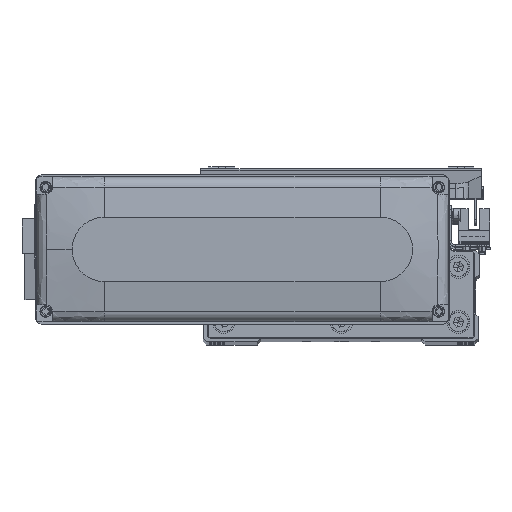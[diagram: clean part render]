
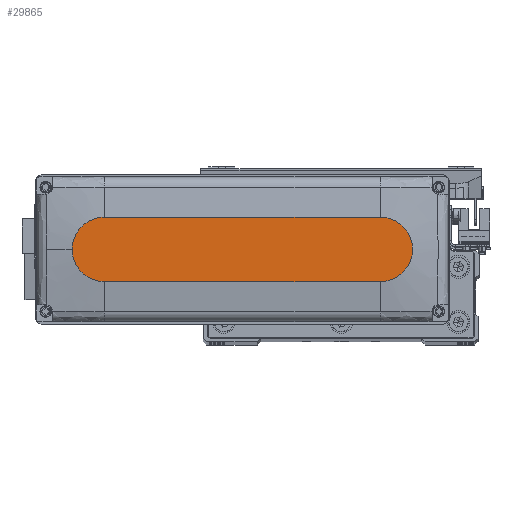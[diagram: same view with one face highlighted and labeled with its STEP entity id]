
A CAD part, top view. The second image highlights one B-rep face of the part: STEP entity #29865.
In plain terms, the highlighted planar face has unit normal (0, 0, 1).
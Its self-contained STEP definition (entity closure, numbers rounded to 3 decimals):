
#271 = VERTEX_POINT ( 'NONE', #20678 ) ;
#825 = ORIENTED_EDGE ( 'NONE', *, *, #6458, .T. ) ;
#1138 = AXIS2_PLACEMENT_3D ( 'NONE', #16083, #30226, #44356 ) ;
#1383 = EDGE_CURVE ( 'NONE', #8369, #29084, #21163, .T. ) ;
#1392 = CARTESIAN_POINT ( 'NONE',  ( -60., 14., 28.5 ) ) ;
#1830 = DIRECTION ( 'NONE',  ( 1., 0., 0. ) ) ;
#2364 = DIRECTION ( 'NONE',  ( 1., 0., 0. ) ) ;
#3411 = CARTESIAN_POINT ( 'NONE',  ( 74., 0., 28.5 ) ) ;
#3756 = ORIENTED_EDGE ( 'NONE', *, *, #1383, .T. ) ;
#5350 = VECTOR ( 'NONE', #25295, 1000. ) ;
#5561 = CARTESIAN_POINT ( 'NONE',  ( 60., 0., 28.5 ) ) ;
#5878 = PLANE ( 'NONE',  #39982 ) ;
#6391 = ORIENTED_EDGE ( 'NONE', *, *, #28171, .T. ) ;
#6458 = EDGE_CURVE ( 'NONE', #12574, #8369, #42922, .T. ) ;
#8369 = VERTEX_POINT ( 'NONE', #15880 ) ;
#9347 = EDGE_LOOP ( 'NONE', ( #6391, #39689, #825, #3756, #19854 ) ) ;
#11157 = CARTESIAN_POINT ( 'NONE',  ( -60., -14., 28.5 ) ) ;
#12574 = VERTEX_POINT ( 'NONE', #26979 ) ;
#15568 = DIRECTION ( 'NONE',  ( -1., 0., 0. ) ) ;
#15753 = EDGE_CURVE ( 'NONE', #29084, #22089, #18396, .T. ) ;
#15880 = CARTESIAN_POINT ( 'NONE',  ( 60., -14., 28.5 ) ) ;
#16083 = CARTESIAN_POINT ( 'NONE',  ( 60., 0., 28.5 ) ) ;
#17761 = EDGE_CURVE ( 'NONE', #271, #12574, #45610, .T. ) ;
#18396 = CIRCLE ( 'NONE', #44299, 14. ) ;
#19478 = CARTESIAN_POINT ( 'NONE',  ( -60., 0., 28.5 ) ) ;
#19706 = DIRECTION ( 'NONE',  ( 0., 0., 1. ) ) ;
#19854 = ORIENTED_EDGE ( 'NONE', *, *, #15753, .T. ) ;
#20020 = CARTESIAN_POINT ( 'NONE',  ( 0., 0., 28.5 ) ) ;
#20678 = CARTESIAN_POINT ( 'NONE',  ( -60., 14., 28.5 ) ) ;
#21163 = CIRCLE ( 'NONE', #1138, 14. ) ;
#22089 = VERTEX_POINT ( 'NONE', #44977 ) ;
#25295 = DIRECTION ( 'NONE',  ( 1., 0., 0. ) ) ;
#25621 = AXIS2_PLACEMENT_3D ( 'NONE', #19478, #33615, #1830 ) ;
#26979 = CARTESIAN_POINT ( 'NONE',  ( -60., -14., 28.5 ) ) ;
#28171 = EDGE_CURVE ( 'NONE', #22089, #271, #33188, .T. ) ;
#29084 = VERTEX_POINT ( 'NONE', #3411 ) ;
#29865 = ADVANCED_FACE ( 'NONE', ( #37642 ), #5878, .T. ) ;
#30226 = DIRECTION ( 'NONE',  ( 0., 0., 1. ) ) ;
#33188 = LINE ( 'NONE', #1392, #40779 ) ;
#33615 = DIRECTION ( 'NONE',  ( 0., 0., 1. ) ) ;
#33849 = DIRECTION ( 'NONE',  ( 1., 0., 0. ) ) ;
#34145 = DIRECTION ( 'NONE',  ( 0., 0., 1. ) ) ;
#37642 = FACE_OUTER_BOUND ( 'NONE', #9347, .T. ) ;
#39689 = ORIENTED_EDGE ( 'NONE', *, *, #17761, .T. ) ;
#39982 = AXIS2_PLACEMENT_3D ( 'NONE', #20020, #34145, #2364 ) ;
#40779 = VECTOR ( 'NONE', #15568, 1000. ) ;
#42922 = LINE ( 'NONE', #11157, #5350 ) ;
#44299 = AXIS2_PLACEMENT_3D ( 'NONE', #5561, #19706, #33849 ) ;
#44356 = DIRECTION ( 'NONE',  ( 1., 0., 0. ) ) ;
#44977 = CARTESIAN_POINT ( 'NONE',  ( 60., 14., 28.5 ) ) ;
#45610 = CIRCLE ( 'NONE', #25621, 14. ) ;
